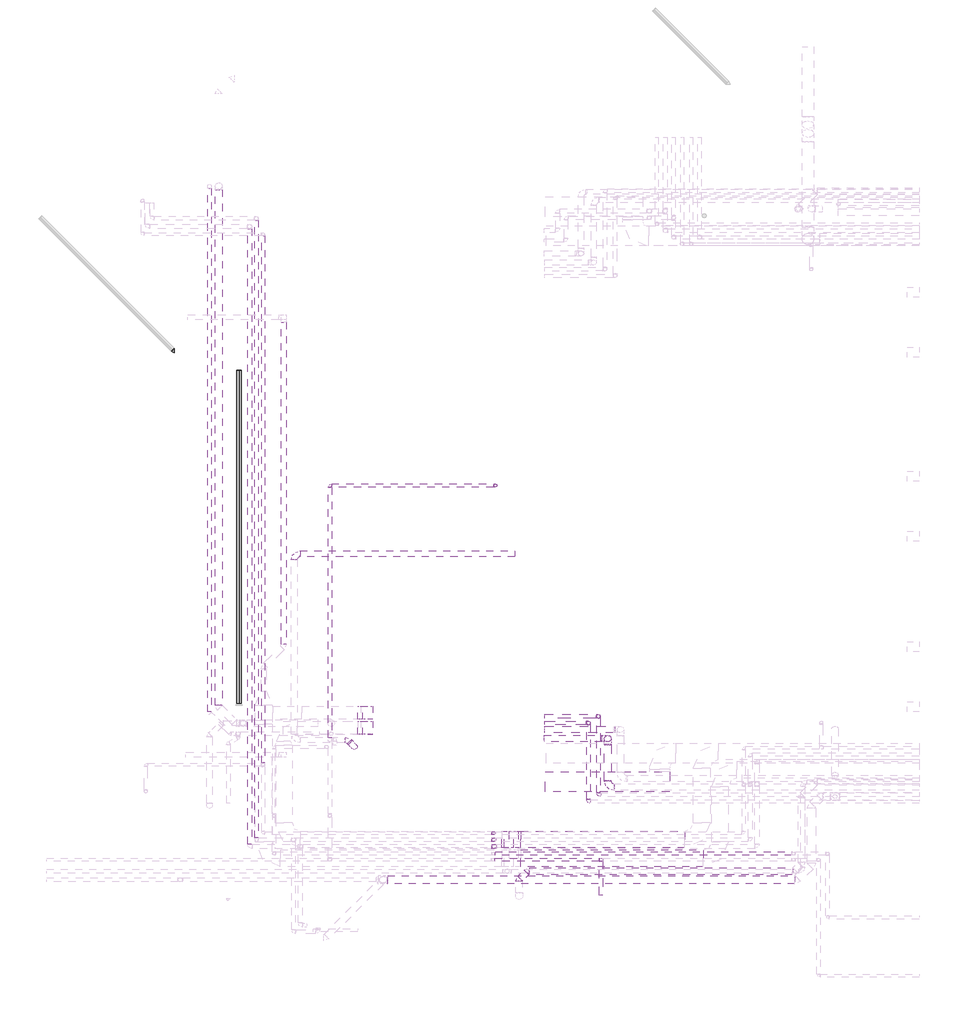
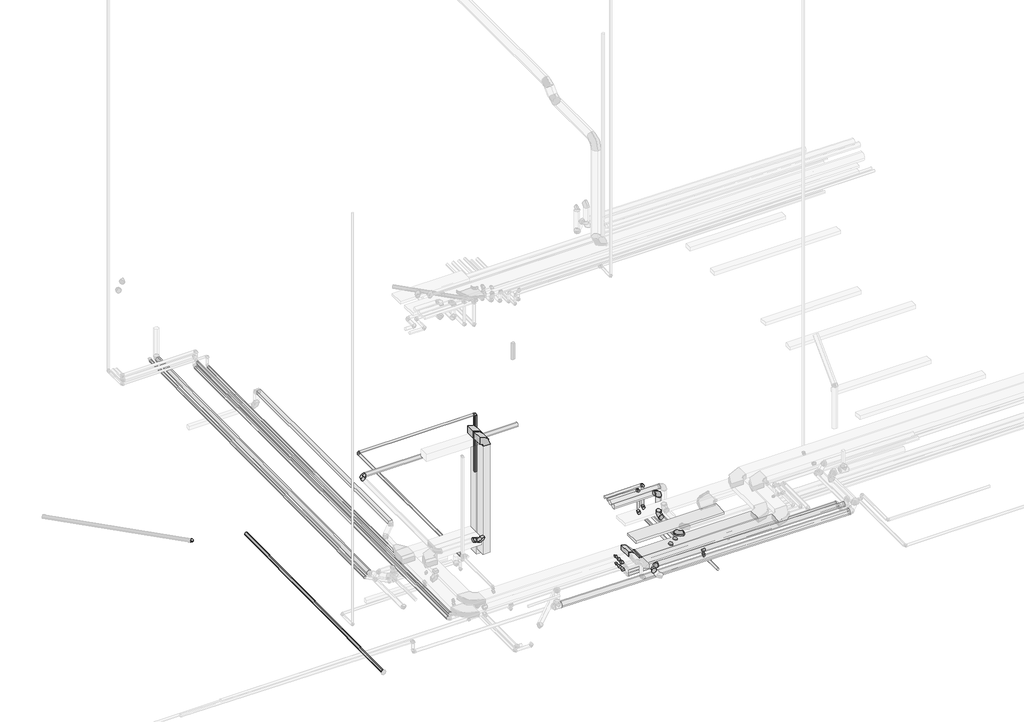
# One storey, part 4 of 12: 29 pipe segments, 22 pipe fittings, 8 duct segments, 7 duct fittings, 1 cable carrier segment.
"""IFC4 building model written with IfcOpenShell, lengths in millimetres."""

from ifc_helpers import new_model, si_unit, point, frame, frame_2d, origin, place, context, project, spatial, polyline, circle_curve, trimmed, segment, composite_curve, outline, extrude, transform, mapped, element, save
from components import m_codo_rectangular_radio_apt_1_w_7d0cd86b, m_codo_rectangular_radio_apt_1_w_cd8a0157, m_codo_redondo_ext_1_d_74319309, m_codo_redondo_ext_1_d_7c243904, pipe_fitting_fa3f9604, pipe_fitting_87aeffad, pipe_fitting_2d09eb79, pipe_fitting_e0fa64fe, pipe_fitting_d8548324, pipe_fitting_26941394, pipe_fitting_f15cb6fd, pipe_fitting_36eb3228, pipe_fitting_7388a683, pipe_fitting_2f38fb91

model = new_model("IFC4")

# Units and contexts
model_context = context("Model", 3, world=origin())
ifc_project = project(units=[si_unit("LENGTHUNIT", "METRE", prefix="MILLI")], contexts=[model_context])

# Site, building, storey
site = spatial("IfcSite", under=ifc_project)
building = spatial("IfcBuilding", under=site)
storey = spatial("IfcBuildingStorey", under=building, Name="Nivell -01 PS1_PK", Elevation=1850.0)

# Cable carrier segment
placement = place(None, origin())
element("IfcCableCarrierSegment", 1, ObjectType="EL", at=placement, inside=storey, context=model_context, shape_type="SweptSolid", body=[
    extrude(outline(polyline([(14049.9823979, -13338.9944753), (14049.9823979, -12738.9944753), (17769.9823979, -12738.9944753), (17769.9823979, -13338.9944753), (14049.9823979, -13338.9944753)])), frame((0.0, 0.0, 5156.6987298), z_axis=(0.0, 0.0, 1.0), x_axis=(1.0, 0.0, 0.0)), (0.0, 0.0, 1.0), 100.0),
])

# Duct fittings
m_codo_rectangular_radio_apt_1_w_shape = m_codo_rectangular_radio_apt_1_w_7d0cd86b(model_context)
element("IfcDuctFitting", 2, ObjectType="M_Codo rectangular - Radio : APT_1 W", at=placement, inside=storey, context=model_context, shape_type="MappedRepresentation", body=[
    mapped(m_codo_rectangular_radio_apt_1_w_shape, transform((8737.7661833, -10971.0153283, 10660.0), x_axis=(0.0, 0.0, 1.0), y_axis=(-1.0, 0.0, 0.0), z_axis=(0.0, -1.0, 0.0))),
])
m_codo_rectangular_radio_apt_1_w_2_shape = m_codo_rectangular_radio_apt_1_w_cd8a0157(model_context)
element("IfcDuctFitting", 3, ObjectType="M_Codo rectangular - Radio : EXT_1 W", at=placement, inside=storey, context=model_context, shape_type="MappedRepresentation", body=[
    mapped(m_codo_rectangular_radio_apt_1_w_2_shape, transform((12828.7133499, -14757.626822, 6150.0), x_axis=(1.0, 0.0, 0.0), y_axis=(0.0, 0.0, -1.0), z_axis=(0.0, 1.0, 0.0))),
])
element("IfcDuctFitting", 4, ObjectType="M_Codo rectangular - Radio : EXT_1 W", at=placement, inside=storey, context=model_context, shape_type="MappedRepresentation", body=[
    mapped(m_codo_rectangular_radio_apt_1_w_2_shape, transform((13228.7133499, -14757.626822, 5750.0), x_axis=(-1.0, 0.0, 0.0), y_axis=(0.0, 0.0, 1.0), z_axis=(0.0, 1.0, 0.0))),
])
element("IfcDuctFitting", 5, ObjectType="M_Codo rectangular - Radio : EXT_1 W", at=placement, inside=storey, context=model_context, shape_type="MappedRepresentation", body=[
    mapped(m_codo_rectangular_radio_apt_1_w_shape, transform((8737.7699514, -11421.0059601, 10660.0), x_axis=(0.0, 0.0, 1.0), y_axis=(-1.0, 0.0, 0.0), z_axis=(0.0, -1.0, 0.0))),
])
m_codo_redondo_ext_1_d_shape = m_codo_redondo_ext_1_d_74319309(model_context)
element("IfcDuctFitting", 6, ObjectType="M_Codo redondo : EXT_1 D", at=placement, inside=storey, context=model_context, shape_type="MappedRepresentation", body=[
    mapped(m_codo_redondo_ext_1_d_shape, transform((6541.1206995, -6220.1857717, 6462.5), x_axis=(-1.0, 0.0, 0.0), y_axis=(0.0, -1.0, 0.0), z_axis=(0.0, 0.0, 1.0))),
])
element("IfcDuctFitting", 7, ObjectType="M_Codo redondo : EXT_1 D", at=placement, inside=storey, context=model_context, shape_type="MappedRepresentation", body=[
    mapped(m_codo_redondo_ext_1_d_shape, transform((8341.1206995, -11984.7059364, 6462.5), x_axis=(0.7071067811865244, -0.7071067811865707, 0.0), y_axis=(0.0, 0.0, 1.0), z_axis=(-0.7071067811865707, -0.7071067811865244, 0.0))),
])
m_codo_redondo_ext_1_d_2_shape = m_codo_redondo_ext_1_d_7c243904(model_context)
element("IfcDuctFitting", 8, ObjectType="M_Codo redondo : EXT_1 D", at=placement, inside=storey, context=model_context, shape_type="MappedRepresentation", body=[
    mapped(m_codo_redondo_ext_1_d_2_shape, transform((8141.1206995, -11784.7059364, 6462.5), x_axis=(-0.707106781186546, 0.7071067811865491, 0.0), y_axis=(-0.7071067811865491, -0.707106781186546, 0.0), z_axis=(0.0, 0.0, 1.0))),
])

# Duct segments
element("IfcDuctSegment", 9, ObjectType="APT_Fibra de vidre rígida", at=placement, inside=storey, context=model_context, shape_type="SweptSolid", body=[
    extrude(outline(polyline([(-150.0, 50.0), (-150.0, 450.0), (150.0, 450.0), (150.0, 50.0), (-150.0, 50.0)])), frame((8737.7661833, -11221.0329799, 5280.0008687), z_axis=(0.0, 3.4747165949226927e-06, 0.9999999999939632), x_axis=(1.0, 0.0, 0.0)), (0.0, 0.0, 1.0), 5080.0),
])
element("IfcDuctSegment", 10, ObjectType="EXT_Fibra de vidre rígida", at=placement, inside=storey, context=model_context, shape_type="SweptSolid", body=[
    extrude(outline(polyline([(-150.0, 50.0), (-150.0, 450.0), (150.0, 450.0), (150.0, 50.0), (-150.0, 50.0)])), frame((8737.7699514, -11671.03298, 5530.0013985), z_axis=(0.0, 5.594187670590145e-06, 0.9999999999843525), x_axis=(1.0, 0.0, 0.0)), (0.0, 0.0, 1.0), 4830.0000001),
])
element("IfcDuctSegment", 11, ObjectType="EXT_Acer Galvanitzat - Rígid", at=placement, inside=storey, context=model_context, shape_type="SweptSolid", body=[
    extrude(outline(composite_curve([segment(trimmed(circle_curve(frame_2d((-6220.1857717, 6462.5)), 87.5), [point((-6307.6857717, 6462.5))], [point((-6220.1857717, 6550.0))], False, "CARTESIAN"), True, "CONTINUOUS"), segment(trimmed(circle_curve(frame_2d((-6220.1857717, 6462.5)), 87.5), [point((-6220.1857717, 6550.0))], [point((-6132.6857717, 6462.5))], False, "CARTESIAN"), True, "CONTINUOUS"), segment(trimmed(circle_curve(frame_2d((-6220.1857717, 6462.5)), 87.5), [point((-6132.6857717, 6462.5))], [point((-6220.1857717, 6375.0))], False, "CARTESIAN"), True, "CONTINUOUS"), segment(trimmed(circle_curve(frame_2d((-6220.1857717, 6462.5)), 87.5), [point((-6220.1857717, 6375.0))], [point((-6307.6857717, 6462.5))], False, "CARTESIAN"), True, "CONTINUOUS")], self_intersect=False)), frame((6716.1206995, 0.0, 0.0), z_axis=(1.0, 0.0, 0.0), x_axis=(0.0, 1.0, 0.0)), (0.0, 0.0, 1.0), 6425.0),
])
element("IfcDuctSegment", 12, ObjectType="EXT_Fibra de vidre rígida", at=placement, inside=storey, context=model_context, shape_type="SweptSolid", body=[
    extrude(outline(polyline([(13311.5560623, -15007.626822), (13311.5560623, -14507.626822), (18225.7133499, -14507.626822), (18225.7133499, -15007.626822), (13311.5560623, -15007.626822)])), frame((0.0, 0.0, 5650.0), z_axis=(0.0, 0.0, 1.0), x_axis=(1.0, 0.0, 0.0)), (0.0, 0.0, 1.0), 200.0),
])
element("IfcDuctSegment", 13, ObjectType="EXT_Acer Galvanitzat - Rígid", at=placement, inside=storey, context=model_context, shape_type="SweptSolid", body=[
    extrude(outline(composite_curve([segment(trimmed(circle_curve(frame_2d((0.0, -87.5)), 87.5), [point((-87.5, -87.5))], [point((0.0, 0.0))], False, "CARTESIAN"), True, "CONTINUOUS"), segment(trimmed(circle_curve(frame_2d((0.0, -87.5)), 87.5), [point((0.0, 0.0))], [point((87.5, -87.5))], False, "CARTESIAN"), True, "CONTINUOUS"), segment(trimmed(circle_curve(frame_2d((0.0, -87.5)), 87.5), [point((87.5, -87.5))], [point((0.0, -175.0))], False, "CARTESIAN"), True, "CONTINUOUS"), segment(trimmed(circle_curve(frame_2d((0.0, -87.5)), 87.5), [point((0.0, -175.0))], [point((-87.5, -87.5))], False, "CARTESIAN"), True, "CONTINUOUS")], self_intersect=False)), frame((8217.3770128, -11860.9622497, 6375.0), z_axis=(-0.7071067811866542, 0.707106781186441, 0.0), x_axis=(0.707106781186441, 0.7071067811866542, 0.0)), (0.0, 0.0, 1.0), 35.3553391),
])
element("IfcDuctSegment", 14, ObjectType="APT_Fibra de vidre rígida", at=placement, inside=storey, context=model_context, shape_type="SweptSolid", body=[
    extrude(outline(polyline([(18775.7133499, -15072.0340662), (18775.7133499, -15572.0340662), (13311.5560623, -15572.0340662), (13311.5560623, -15072.0340662), (18775.7133499, -15072.0340662)])), frame((0.0, 0.0, 5650.0), z_axis=(0.0, 0.0, 1.0), x_axis=(1.0, 0.0, 0.0)), (0.0, 0.0, 1.0), 200.0),
])
element("IfcDuctSegment", 15, ObjectType="EXT_Fibra de vidre rígida", at=placement, inside=storey, context=model_context, shape_type="SweptSolid", body=[
    extrude(outline(polyline([(0.0, -500.0), (0.0, 0.0), (400.0, 0.0), (400.0, -500.0), (0.0, -500.0)])), frame((12816.5813155, -14507.626822, 6020.7106781), z_axis=(0.7071067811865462, 0.0, 0.7071067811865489), x_axis=(0.7071067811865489, 0.0, -0.7071067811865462)), (0.0, 0.0, 1.0), 200.0),
])
element("IfcDuctSegment", 16, ObjectType="APT_Fibra de vidre rígida", at=placement, inside=storey, context=model_context, shape_type="SweptSolid", body=[
    extrude(outline(polyline([(6155.3976532, 706.9206384), (6305.3976532, 706.9206384), (6305.3976532, -8924.4254904), (6155.3976532, -8924.4254904), (6155.3976532, 706.9206384)])), frame((0.0, 0.0, 6075.0), z_axis=(0.0, 0.0, 1.0), x_axis=(1.0, 0.0, 0.0)), (0.0, 0.0, 1.0), 150.0),
])

# Pipe fittings
pipe_fitting_shape = pipe_fitting_fa3f9604(model_context)
element("IfcPipeFitting", 17, ObjectType="M_Codo - Genérico : Estándar", at=placement, inside=storey, context=model_context, shape_type="MappedRepresentation", body=[
    mapped(pipe_fitting_shape, transform((15337.1546057, -11273.3759778, 4855.0), x_axis=(4.256890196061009e-05, 0.9999999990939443, 0.0), y_axis=(0.0, 0.0, 1.0), z_axis=(0.9999999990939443, -4.256890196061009e-05, 0.0))),
])
element("IfcPipeFitting", 18, ObjectType="M_Codo - Genérico : Estándar", at=placement, inside=storey, context=model_context, shape_type="MappedRepresentation", body=[
    mapped(pipe_fitting_shape, transform((15337.1546057, -11273.3759778, 5850.0), x_axis=(0.0, 0.0, 1.0), y_axis=(-0.9999999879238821, 0.00015540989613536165, 0.0), z_axis=(-0.00015540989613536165, -0.9999999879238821, 0.0))),
])
element("IfcPipeFitting", 19, ObjectType="M_Codo - Genérico : Estándar", at=placement, inside=storey, context=model_context, shape_type="MappedRepresentation", body=[
    mapped(pipe_fitting_shape, transform((15637.1633733, -11073.3514949, 5850.0), x_axis=(0.0, 0.0, 1.0), y_axis=(-0.9999999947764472, 0.00010221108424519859, 0.0), z_axis=(-0.00010221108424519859, -0.9999999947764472, 0.0))),
])
element("IfcPipeFitting", 20, ObjectType="M_Codo - Genérico : Estándar", at=placement, inside=storey, context=model_context, shape_type="MappedRepresentation", body=[
    mapped(pipe_fitting_shape, transform((15637.1633733, -11073.3514949, 4855.0), x_axis=(0.0, 0.0, -1.0), y_axis=(-4.268530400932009e-05, -0.9999999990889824, 0.0), z_axis=(-0.9999999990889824, 4.268530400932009e-05, 0.0))),
])
element("IfcPipeFitting", 21, ObjectType="M_Codo - Genérico : Estándar", at=placement, inside=storey, context=model_context, shape_type="MappedRepresentation", body=[
    mapped(pipe_fitting_shape, transform((12506.2717422, -14767.4914554, 5895.0), x_axis=(1.0, 0.0, 0.0), y_axis=(0.0, 0.0, -1.0), z_axis=(0.0, 1.0, 0.0))),
])
element("IfcPipeFitting", 22, ObjectType="M_Codo - Genérico : Estándar", at=placement, inside=storey, context=model_context, shape_type="MappedRepresentation", body=[
    mapped(pipe_fitting_shape, transform((12506.2717422, -14767.4914554, 5515.0), x_axis=(0.0, 0.0, -1.0), y_axis=(1.0, 0.0, 0.0), z_axis=(0.0, -1.0, 0.0))),
])
pipe_fitting_2_shape = pipe_fitting_87aeffad(model_context)
element("IfcPipeFitting", 23, ObjectType="M_Codo - Genérico : Estándar", at=placement, inside=storey, context=model_context, shape_type="MappedRepresentation", body=[
    mapped(pipe_fitting_2_shape, transform((7606.3040659, -4175.6271266, 5899.2), x_axis=(-1.0, 0.0, 0.0), y_axis=(0.0, -1.0, 0.0), z_axis=(0.0, 0.0, 1.0))),
])
element("IfcPipeFitting", 24, ObjectType="M_Codo - Genérico : Estándar", at=placement, inside=storey, context=model_context, shape_type="MappedRepresentation", body=[
    mapped(pipe_fitting_2_shape, transform((12556.3040659, -4175.6271266, 5899.2), x_axis=(1.0, 0.0, 0.0), y_axis=(0.0, 0.0, -1.0), z_axis=(0.0, 1.0, 0.0))),
])
element("IfcPipeFitting", 25, ObjectType="M_Codo - Genérico : Estándar", at=placement, inside=storey, context=model_context, shape_type="MappedRepresentation", body=[
    mapped(pipe_fitting_2_shape, transform((12495.7217422, -14567.4914554, 5905.0), x_axis=(1.0, 0.0, 0.0), y_axis=(0.0, 0.0, -1.0), z_axis=(0.0, 1.0, 0.0))),
])
element("IfcPipeFitting", 26, ObjectType="M_Codo - Genérico : Estándar", at=placement, inside=storey, context=model_context, shape_type="MappedRepresentation", body=[
    mapped(pipe_fitting_2_shape, transform((12495.7217422, -14567.4914554, 5525.0), x_axis=(0.0, 0.0, -1.0), y_axis=(1.0, 0.0, 0.0), z_axis=(0.0, -1.0, 0.0))),
])
element("IfcPipeFitting", 27, ObjectType="M_Codo - Genérico : Estándar", at=placement, inside=storey, context=model_context, shape_type="MappedRepresentation", body=[
    mapped(pipe_fitting_2_shape, transform((15714.9203808, -15364.3646266, 5299.2), x_axis=(0.0, 0.0, -1.0), y_axis=(0.0, -1.0, 0.0), z_axis=(-1.0, 0.0, 0.0))),
])
pipe_fitting_3_shape = pipe_fitting_2d09eb79(model_context)
element("IfcPipeFitting", 28, ObjectType="M_Te - Genérica : Estándar", at=placement, inside=storey, context=model_context, shape_type="MappedRepresentation", body=[
    mapped(pipe_fitting_3_shape, transform((15714.9203808, -15364.3646266, 5519.2), x_axis=(1.0, 0.0, 0.0), y_axis=(0.0, 0.0, 1.0), z_axis=(0.0, -1.0, 0.0))),
])
pipe_fitting_4_shape = pipe_fitting_e0fa64fe(model_context)
element("IfcPipeFitting", 29, ObjectType="M_Codo - Genérico : Estándar", at=placement, inside=storey, context=model_context, shape_type="MappedRepresentation", body=[
    mapped(pipe_fitting_4_shape, transform((12514.7717422, -14967.4914554, 5887.5), x_axis=(1.0, 0.0, 0.0), y_axis=(0.0, 0.0, -1.0), z_axis=(0.0, 1.0, 0.0))),
])
element("IfcPipeFitting", 30, ObjectType="M_Codo - Genérico : Estándar", at=placement, inside=storey, context=model_context, shape_type="MappedRepresentation", body=[
    mapped(pipe_fitting_4_shape, transform((12514.7717422, -14967.4914554, 5507.5), x_axis=(0.0, 0.0, -1.0), y_axis=(1.0, 0.0, 0.0), z_axis=(0.0, -1.0, 0.0))),
])
pipe_fitting_5_shape = pipe_fitting_d8548324(model_context)
element("IfcPipeFitting", 31, ObjectType="M_Codo - Genérico : Estándar", at=placement, inside=storey, context=model_context, shape_type="MappedRepresentation", body=[
    mapped(pipe_fitting_5_shape, transform((2931.1734244, -136.3422966, 1178.9111219), x_axis=(0.707089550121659, -0.7070533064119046, -0.009999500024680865), y_axis=(0.7070533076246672, 0.7071481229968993, -0.0041415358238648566), z_axis=(0.009999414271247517, -0.004141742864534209, 0.9999414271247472))),
])
pipe_fitting_6_shape = pipe_fitting_26941394(model_context)
element("IfcPipeFitting", 32, ObjectType="M_Codo - Genérico : Estándar", at=placement, inside=storey, context=model_context, shape_type="MappedRepresentation", body=[
    mapped(pipe_fitting_6_shape, transform((15337.0547025, -13620.2360568, 4855.0), x_axis=(-4.2568901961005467e-05, -0.9999999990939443, 0.0), y_axis=(0.9999999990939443, -4.2568901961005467e-05, 0.0), z_axis=(0.0, 0.0, 1.0))),
])
pipe_fitting_7_shape = pipe_fitting_f15cb6fd(model_context)
element("IfcPipeFitting", 33, ObjectType="M_Codo - Genérico : Estándar", at=placement, inside=storey, context=model_context, shape_type="MappedRepresentation", body=[
    mapped(pipe_fitting_7_shape, transform((15637.0623018, -13420.2277182, 4855.0), x_axis=(-5.689495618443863e-05, -0.999999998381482, 0.0), y_axis=(0.999999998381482, -5.689495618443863e-05, 0.0), z_axis=(0.0, 0.0, 1.0))),
])
pipe_fitting_8_shape = pipe_fitting_36eb3228(model_context)
element("IfcPipeFitting", 34, ObjectType="M_Codo - Genérico : Estándar", at=placement, inside=storey, context=model_context, shape_type="MappedRepresentation", body=[
    mapped(pipe_fitting_8_shape, transform((13265.97625, -15961.5588709, 5846.8280438), x_axis=(-0.7070697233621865, -0.7070697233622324, 0.010237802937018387), y_axis=(0.7071296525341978, -0.7070731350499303, 0.0039033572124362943), z_axis=(0.00447892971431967, 0.009999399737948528, 0.9999399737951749))),
])
pipe_fitting_9_shape = pipe_fitting_7388a683(model_context)
element("IfcPipeFitting", 35, ObjectType="M_Codo - Genérico : Estándar", at=placement, inside=storey, context=model_context, shape_type="MappedRepresentation", body=[
    mapped(pipe_fitting_9_shape, transform((13518.4825835, -15709.0525375, 5843.1719544), x_axis=(-0.9999442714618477, 5.5608140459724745e-06, 0.010557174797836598), y_axis=(3.583596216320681e-05, -0.9999923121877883, 0.003921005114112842), z_axis=(0.010557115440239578, 0.003921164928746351, 0.9999365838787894))),
])
pipe_fitting_10_shape = pipe_fitting_2f38fb91(model_context)
element("IfcPipeFitting", 36, ObjectType="Codo 90º Soldadura a Tope SDR 11 BluePipe : Estándar", at=placement, inside=storey, context=model_context, shape_type="MappedRepresentation", body=[
    mapped(pipe_fitting_10_shape, transform((15917.1821353, -11743.2748365, 5849.9994491), x_axis=(0.9999999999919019, -2.5073508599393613e-06, -3.1479117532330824e-06), y_axis=(-3.147912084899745e-06, -1.3227378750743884e-07, -0.9999999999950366), z_axis=(2.507350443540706e-06, 0.9999999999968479, -1.3228168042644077e-07))),
])
element("IfcPipeFitting", 37, ObjectType="Codo 90º Soldadura a Tope SDR 11 BluePipe : Estándar", at=placement, inside=storey, context=model_context, shape_type="MappedRepresentation", body=[
    mapped(pipe_fitting_10_shape, transform((15917.1360908, -11743.2750079, 4819.9998693), x_axis=(4.769498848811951e-07, -1.3228287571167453e-07, -0.9999999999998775), y_axis=(-4.3362157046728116e-05, -0.999999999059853, 1.3226219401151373e-07), z_axis=(-0.999999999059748, 4.336215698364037e-05, -4.769556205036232e-07))),
])
element("IfcPipeFitting", 38, ObjectType="Codo 90º Soldadura a Tope SDR 11 BluePipe : Estándar", at=placement, inside=storey, context=model_context, shape_type="MappedRepresentation", body=[
    mapped(pipe_fitting_10_shape, transform((15917.0711893, -13189.7667067, 4820.0000672), x_axis=(-5.581078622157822e-05, -0.9999999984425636, 1.7023241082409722e-07), y_axis=(0.999999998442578, -5.581078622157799e-05, 6.059060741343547e-12), z_axis=(3.4417439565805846e-12, 1.7023241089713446e-07, 0.9999999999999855))),
])

# Pipe segments
element("IfcPipeSegment", 39, ObjectType="PPR_CLI_Aquatherm Blue Pipe", at=placement, inside=storey, context=model_context, shape_type="SweptSolid", body=[
    extrude(outline(composite_curve([segment(trimmed(circle_curve(frame_2d((0.0, -100.0)), 100.0), [point((0.0, 0.0))], [point((100.0, -100.0))], False, "CARTESIAN"), True, "CONTINUOUS"), segment(trimmed(circle_curve(frame_2d((0.0, -100.0)), 100.0), [point((100.0, -100.0))], [point((0.0, -200.0))], False, "CARTESIAN"), True, "CONTINUOUS"), segment(trimmed(circle_curve(frame_2d((0.0, -100.0)), 100.0), [point((0.0, -200.0))], [point((-100.0, -100.0))], False, "CARTESIAN"), True, "CONTINUOUS"), segment(trimmed(circle_curve(frame_2d((0.0, -100.0)), 100.0), [point((-100.0, -100.0))], [point((0.0, 0.0))], False, "CARTESIAN"), True, "CONTINUOUS")], self_intersect=False)), frame((15817.0809563, -13014.7623707, 4819.9998924), z_axis=(4.3362157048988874e-05, 0.9999999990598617, 0.0), x_axis=(0.0, 0.0, -1.0)), (0.0, 0.0, 1.0), 1096.4917002),
])
element("IfcPipeSegment", 40, ObjectType="PPR_CLI_Aquatherm Blue Pipe", at=placement, inside=storey, context=model_context, shape_type="SweptSolid", body=[
    extrude(outline(composite_curve([segment(trimmed(circle_curve(frame_2d((0.0, 100.0)), 100.0), [point((-100.0, 100.0))], [point((0.0, 200.0))], False, "CARTESIAN"), True, "CONTINUOUS"), segment(trimmed(circle_curve(frame_2d((0.0, 100.0)), 100.0), [point((0.0, 200.0))], [point((100.0, 100.0))], False, "CARTESIAN"), True, "CONTINUOUS"), segment(trimmed(circle_curve(frame_2d((0.0, 100.0)), 100.0), [point((100.0, 100.0))], [point((0.0, 0.0))], False, "CARTESIAN"), True, "CONTINUOUS"), segment(trimmed(circle_curve(frame_2d((0.0, 100.0)), 100.0), [point((0.0, 0.0))], [point((-100.0, 100.0))], False, "CARTESIAN"), True, "CONTINUOUS")], self_intersect=False)), frame((16122.1881928, -11473.2860895, 5750.0), z_axis=(-0.999999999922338, 1.246290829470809e-05, 0.0), x_axis=(-1.246290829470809e-05, -0.999999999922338, 0.0)), (0.0, 0.0, 1.0), 2085.0440531),
])
element("IfcPipeSegment", 41, ObjectType="PPR_CLI_Aquatherm Blue Pipe", at=placement, inside=storey, context=model_context, shape_type="SweptSolid", body=[
    extrude(outline(composite_curve([segment(trimmed(circle_curve(frame_2d((0.0, 55.0)), 55.0), [point((-55.0000001, 55.0))], [point((0.0, 110.0))], False, "CARTESIAN"), True, "CONTINUOUS"), segment(trimmed(circle_curve(frame_2d((0.0, 55.0)), 55.0), [point((0.0, 110.0))], [point((55.0, 55.0))], False, "CARTESIAN"), True, "CONTINUOUS"), segment(trimmed(circle_curve(frame_2d((0.0, 55.0)), 55.0), [point((55.0, 55.0))], [point((0.0, 0.0))], False, "CARTESIAN"), True, "CONTINUOUS"), segment(trimmed(circle_curve(frame_2d((0.0, 55.0)), 55.0), [point((0.0, 0.0))], [point((-55.0000001, 55.0))], False, "CARTESIAN"), True, "CONTINUOUS")], self_intersect=False)), frame((15274.2171065, -11273.3661967, 5795.0), z_axis=(-0.9999999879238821, 0.00015540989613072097, 0.0), x_axis=(-0.00015540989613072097, -0.9999999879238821, 0.0)), (0.0, 0.0, 1.0), 1237.0659068),
])
element("IfcPipeSegment", 42, ObjectType="PPR_CLI_Aquatherm Blue Pipe", at=placement, inside=storey, context=model_context, shape_type="SweptSolid", body=[
    extrude(outline(composite_curve([segment(trimmed(circle_curve(frame_2d((0.0, -55.0)), 55.0), [point((0.0, 0.0))], [point((55.0, -55.0))], False, "CARTESIAN"), True, "CONTINUOUS"), segment(trimmed(circle_curve(frame_2d((0.0, -55.0)), 55.0), [point((55.0, -55.0))], [point((0.0, -110.0))], False, "CARTESIAN"), True, "CONTINUOUS"), segment(trimmed(circle_curve(frame_2d((0.0, -55.0)), 55.0), [point((0.0, -110.0))], [point((-55.0, -55.0))], False, "CARTESIAN"), True, "CONTINUOUS"), segment(trimmed(circle_curve(frame_2d((0.0, -55.0)), 55.0), [point((-55.0, -55.0))], [point((0.0, 0.0))], False, "CARTESIAN"), True, "CONTINUOUS")], self_intersect=False)), frame((15282.0573818, -13557.2935377, 4855.0), z_axis=(4.256890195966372e-05, 0.9999999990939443, 0.0), x_axis=(0.0, 0.0, -1.0)), (0.0, 0.0, 1.0), 2220.9824033),
])
element("IfcPipeSegment", 43, ObjectType="PPR_CLI_Aquatherm Blue Pipe", at=placement, inside=storey, context=model_context, shape_type="SweptSolid", body=[
    extrude(outline(composite_curve([segment(trimmed(circle_curve(frame_2d((0.0, 55.0)), 55.0), [point((-55.0, 55.0))], [point((0.0, 110.0))], False, "CARTESIAN"), True, "CONTINUOUS"), segment(trimmed(circle_curve(frame_2d((0.0, 55.0)), 55.0), [point((0.0, 110.0))], [point((55.0, 55.0))], False, "CARTESIAN"), True, "CONTINUOUS"), segment(trimmed(circle_curve(frame_2d((0.0, 55.0)), 55.0), [point((55.0, 55.0))], [point((0.0, 0.0))], False, "CARTESIAN"), True, "CONTINUOUS"), segment(trimmed(circle_curve(frame_2d((0.0, 55.0)), 55.0), [point((0.0, 0.0))], [point((-55.0, 55.0))], False, "CARTESIAN"), True, "CONTINUOUS")], self_intersect=False)), frame((15574.2258736, -11073.345062, 5795.0), z_axis=(-0.9999999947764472, 0.00010221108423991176, 0.0), x_axis=(-0.00010221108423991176, -0.9999999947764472, 0.0)), (0.0, 0.0, 1.0), 1537.0659166),
])
element("IfcPipeSegment", 44, ObjectType="PPR_CLI_Aquatherm Blue Pipe", at=placement, inside=storey, context=model_context, shape_type="SweptSolid", body=[
    extrude(outline(composite_curve([segment(trimmed(circle_curve(frame_2d((0.0, 55.0)), 55.0), [point((0.0, 110.0))], [point((55.0, 55.0))], False, "CARTESIAN"), True, "CONTINUOUS"), segment(trimmed(circle_curve(frame_2d((0.0, 55.0)), 55.0), [point((55.0, 55.0))], [point((0.0, 0.0))], False, "CARTESIAN"), True, "CONTINUOUS"), segment(trimmed(circle_curve(frame_2d((0.0, 55.0)), 55.0), [point((0.0, 0.0))], [point((-55.0, 55.0))], False, "CARTESIAN"), True, "CONTINUOUS"), segment(trimmed(circle_curve(frame_2d((0.0, 55.0)), 55.0), [point((-55.0, 55.0))], [point((0.0, 110.0))], False, "CARTESIAN"), True, "CONTINUOUS")], self_intersect=False)), frame((15582.0658829, -13357.2842897, 4855.0), z_axis=(4.2685304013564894e-05, 0.9999999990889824, 0.0), x_axis=(0.0, 0.0, 1.0)), (0.0, 0.0, 1.0), 2220.9976445),
])
element("IfcPipeSegment", 45, ObjectType="PPR_CLI_Aquatherm Blue Pipe", at=placement, inside=storey, context=model_context, shape_type="SweptSolid", body=[
    extrude(outline(composite_curve([segment(trimmed(circle_curve(frame_2d((0.0, 100.0)), 100.0), [point((-100.0, 100.0))], [point((0.0, 200.0))], False, "CARTESIAN"), True, "CONTINUOUS"), segment(trimmed(circle_curve(frame_2d((0.0, 100.0)), 100.0), [point((0.0, 200.0))], [point((100.0, 100.0))], False, "CARTESIAN"), True, "CONTINUOUS"), segment(trimmed(circle_curve(frame_2d((0.0, 100.0)), 100.0), [point((100.0, 100.0))], [point((0.0, 0.0))], False, "CARTESIAN"), True, "CONTINUOUS"), segment(trimmed(circle_curve(frame_2d((0.0, 100.0)), 100.0), [point((0.0, 0.0))], [point((-100.0, 100.0))], False, "CARTESIAN"), True, "CONTINUOUS")], self_intersect=False)), frame((15742.1818205, -11743.2743977, 5750.0), z_axis=(-0.9999999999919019, 2.5073508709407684e-06, 3.1479071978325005e-06), x_axis=(-2.507350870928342e-06, -0.9999999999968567, 7.894129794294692e-12)), (0.0, 0.0, 1.0), 1725.0480005),
])
element("IfcPipeSegment", 46, ObjectType="PPR_CLI_Aquatherm Blue Pipe", at=placement, inside=storey, context=model_context, shape_type="SweptSolid", body=[
    extrude(outline(composite_curve([segment(trimmed(circle_curve(frame_2d((0.0, -100.0)), 100.0), [point((-100.0, -100.0))], [point((0.0, 0.0))], False, "CARTESIAN"), True, "CONTINUOUS"), segment(trimmed(circle_curve(frame_2d((0.0, -100.0)), 100.0), [point((0.0, 0.0))], [point((100.0, -100.0))], False, "CARTESIAN"), True, "CONTINUOUS"), segment(trimmed(circle_curve(frame_2d((0.0, -100.0)), 100.0), [point((100.0, -100.0))], [point((0.0, -200.0))], False, "CARTESIAN"), True, "CONTINUOUS"), segment(trimmed(circle_curve(frame_2d((0.0, -100.0)), 100.0), [point((0.0, -200.0))], [point((-100.0, -100.0))], False, "CARTESIAN"), True, "CONTINUOUS")], self_intersect=False)), frame((15917.1360073, -11843.2749848, 4994.9998825), z_axis=(2.777570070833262e-06, 1.3227244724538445e-07, 0.999999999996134), x_axis=(-0.9999999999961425, 0.0, 2.7775700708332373e-06)), (0.0, 0.0, 1.0), 679.99958),
])
element("IfcPipeSegment", 47, ObjectType="PPR_CLI_Aquatherm Blue Pipe", at=placement, inside=storey, context=model_context, shape_type="SweptSolid", body=[
    extrude(outline(composite_curve([segment(trimmed(circle_curve(frame_2d((15337.1546057, -11273.3759778)), 55.0), [point((15282.1546057, -11273.3759778))], [point((15337.1546057, -11218.3759778))], False, "CARTESIAN"), True, "CONTINUOUS"), segment(trimmed(circle_curve(frame_2d((15337.1546057, -11273.3759778)), 55.0), [point((15337.1546057, -11218.3759778))], [point((15392.1546057, -11273.3759778))], False, "CARTESIAN"), True, "CONTINUOUS"), segment(trimmed(circle_curve(frame_2d((15337.1546057, -11273.3759778)), 55.0), [point((15392.1546057, -11273.3759778))], [point((15337.1546057, -11328.3759778))], False, "CARTESIAN"), True, "CONTINUOUS"), segment(trimmed(circle_curve(frame_2d((15337.1546057, -11273.3759778)), 55.0), [point((15337.1546057, -11328.3759778))], [point((15282.1546057, -11273.3759778))], False, "CARTESIAN"), True, "CONTINUOUS")], self_intersect=False)), frame((0.0, 0.0, 4917.9375), z_axis=(0.0, 0.0, 1.0), x_axis=(1.0, 0.0, 0.0)), (0.0, 0.0, 1.0), 869.125),
])
element("IfcPipeSegment", 48, ObjectType="PPR_CLI_Aquatherm Blue Pipe", at=placement, inside=storey, context=model_context, shape_type="SweptSolid", body=[
    extrude(outline(composite_curve([segment(trimmed(circle_curve(frame_2d((15637.1633733, -11073.3514949)), 55.0), [point((15582.1633733, -11073.3514949))], [point((15637.1633733, -11018.3514949))], False, "CARTESIAN"), True, "CONTINUOUS"), segment(trimmed(circle_curve(frame_2d((15637.1633733, -11073.3514949)), 55.0), [point((15637.1633733, -11018.3514949))], [point((15692.1633733, -11073.3514949))], False, "CARTESIAN"), True, "CONTINUOUS"), segment(trimmed(circle_curve(frame_2d((15637.1633733, -11073.3514949)), 55.0), [point((15692.1633733, -11073.3514949))], [point((15637.1633733, -11128.3514949))], False, "CARTESIAN"), True, "CONTINUOUS"), segment(trimmed(circle_curve(frame_2d((15637.1633733, -11073.3514949)), 55.0), [point((15637.1633733, -11128.3514949))], [point((15582.1633733, -11073.3514949))], False, "CARTESIAN"), True, "CONTINUOUS")], self_intersect=False)), frame((0.0, 0.0, 4917.9375), z_axis=(0.0, 0.0, 1.0), x_axis=(1.0, 0.0, 0.0)), (0.0, 0.0, 1.0), 869.125),
])
element("IfcPipeSegment", 49, ObjectType="AN_CI", at=placement, inside=storey, context=model_context, shape_type="SweptSolid", body=[
    extrude(outline(composite_curve([segment(trimmed(circle_curve(frame_2d((5899.2, 7606.3040659)), 50.8), [point((5899.2, 7657.1040659))], [point((5950.0, 7606.3040659))], False, "CARTESIAN"), True, "CONTINUOUS"), segment(trimmed(circle_curve(frame_2d((5899.2, 7606.3040659)), 50.8), [point((5950.0, 7606.3040659))], [point((5899.2, 7555.5040659))], False, "CARTESIAN"), True, "CONTINUOUS"), segment(trimmed(circle_curve(frame_2d((5899.2, 7606.3040659)), 50.8), [point((5899.2, 7555.5040659))], [point((5848.4, 7606.3040659))], False, "CARTESIAN"), True, "CONTINUOUS"), segment(trimmed(circle_curve(frame_2d((5899.2, 7606.3040659)), 50.8), [point((5848.4, 7606.3040659))], [point((5899.2, 7657.1040659))], False, "CARTESIAN"), True, "CONTINUOUS")], self_intersect=False)), frame((0.0, -11712.3079936, 0.0), z_axis=(0.0, 1.0, 0.0), x_axis=(0.0, 0.0, 1.0)), (0.0, 0.0, 1.0), 7484.293367),
])
element("IfcPipeSegment", 50, ObjectType="AN_CI", at=placement, inside=storey, context=model_context, shape_type="SweptSolid", body=[
    extrude(outline(composite_curve([segment(trimmed(circle_curve(frame_2d((-4175.6271266, 5899.2)), 50.8), [point((-4226.4271266, 5899.2))], [point((-4175.6271266, 5950.0))], False, "CARTESIAN"), True, "CONTINUOUS"), segment(trimmed(circle_curve(frame_2d((-4175.6271266, 5899.2)), 50.8), [point((-4175.6271266, 5950.0))], [point((-4124.8271266, 5899.2))], False, "CARTESIAN"), True, "CONTINUOUS"), segment(trimmed(circle_curve(frame_2d((-4175.6271266, 5899.2)), 50.8), [point((-4124.8271266, 5899.2))], [point((-4175.6271266, 5848.4))], False, "CARTESIAN"), True, "CONTINUOUS"), segment(trimmed(circle_curve(frame_2d((-4175.6271266, 5899.2)), 50.8), [point((-4175.6271266, 5848.4))], [point((-4226.4271266, 5899.2))], False, "CARTESIAN"), True, "CONTINUOUS")], self_intersect=False)), frame((7658.6915659, 0.0, 0.0), z_axis=(1.0, 0.0, 0.0), x_axis=(0.0, 1.0, 0.0)), (0.0, 0.0, 1.0), 4845.225),
])
element("IfcPipeSegment", 51, ObjectType="AN_CI", at=placement, inside=storey, context=model_context, shape_type="SweptSolid", body=[
    extrude(outline(composite_curve([segment(trimmed(circle_curve(frame_2d((12556.3040659, -4175.6271266)), 50.8), [point((12505.5040659, -4175.6271266))], [point((12556.3040659, -4124.8271266))], False, "CARTESIAN"), True, "CONTINUOUS"), segment(trimmed(circle_curve(frame_2d((12556.3040659, -4175.6271266)), 50.8), [point((12556.3040659, -4124.8271266))], [point((12607.1040659, -4175.6271266))], False, "CARTESIAN"), True, "CONTINUOUS"), segment(trimmed(circle_curve(frame_2d((12556.3040659, -4175.6271266)), 50.8), [point((12607.1040659, -4175.6271266))], [point((12556.3040659, -4226.4271266))], False, "CARTESIAN"), True, "CONTINUOUS"), segment(trimmed(circle_curve(frame_2d((12556.3040659, -4175.6271266)), 50.8), [point((12556.3040659, -4226.4271266))], [point((12505.5040659, -4175.6271266))], False, "CARTESIAN"), True, "CONTINUOUS")], self_intersect=False)), frame((0.0, 0.0, 3350.0), z_axis=(0.0, 0.0, 1.0), x_axis=(1.0, 0.0, 0.0)), (0.0, 0.0, 1.0), 2496.8125),
])
element("IfcPipeSegment", 52, ObjectType="AN_CI", at=placement, inside=storey, context=model_context, shape_type="SweptSolid", body=[
    extrude(outline(composite_curve([segment(trimmed(circle_curve(frame_2d((5299.2, 15714.9203808)), 50.8), [point((5299.2, 15664.1203808))], [point((5248.4, 15714.9203808))], False, "CARTESIAN"), True, "CONTINUOUS"), segment(trimmed(circle_curve(frame_2d((5299.2, 15714.9203808)), 50.8), [point((5248.4, 15714.9203808))], [point((5299.2, 15765.7203808))], False, "CARTESIAN"), True, "CONTINUOUS"), segment(trimmed(circle_curve(frame_2d((5299.2, 15714.9203808)), 50.8), [point((5299.2, 15765.7203808))], [point((5350.0, 15714.9203808))], False, "CARTESIAN"), True, "CONTINUOUS"), segment(trimmed(circle_curve(frame_2d((5299.2, 15714.9203808)), 50.8), [point((5350.0, 15714.9203808))], [point((5299.2, 15664.1203808))], False, "CARTESIAN"), True, "CONTINUOUS")], self_intersect=False)), frame((0.0, -16434.3646266, 0.0), z_axis=(0.0, 1.0, 0.0), x_axis=(0.0, 0.0, 1.0)), (0.0, 0.0, 1.0), 1017.6125),
])
element("IfcPipeSegment", 53, ObjectType="PP_FN", at=placement, inside=storey, context=model_context, shape_type="SweptSolid", body=[
    extrude(outline(composite_curve([segment(trimmed(circle_curve(frame_2d((0.0, 62.5)), 62.5), [point((0.0, 125.0))], [point((62.5, 62.5))], False, "CARTESIAN"), True, "CONTINUOUS"), segment(trimmed(circle_curve(frame_2d((0.0, 62.5)), 62.5), [point((62.5, 62.5))], [point((0.0, 0.0))], False, "CARTESIAN"), True, "CONTINUOUS"), segment(trimmed(circle_curve(frame_2d((0.0, 62.5)), 62.5), [point((0.0, 0.0))], [point((-62.5, 62.5))], False, "CARTESIAN"), True, "CONTINUOUS"), segment(trimmed(circle_curve(frame_2d((0.0, 62.5)), 62.5), [point((-62.5, 62.5))], [point((0.0, 125.0))], False, "CARTESIAN"), True, "CONTINUOUS")], self_intersect=False)), frame((5147.1609692, -14896.0483925, 5887.5), z_axis=(4.153409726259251e-05, 0.9999999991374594, 0.0), x_axis=(0.0, 0.0, 1.0)), (0.0, 0.0, 1.0), 18394.892867),
])
element("IfcPipeSegment", 54, ObjectType="PP_FN", at=placement, inside=storey, context=model_context, shape_type="SweptSolid", body=[
    extrude(outline(composite_curve([segment(trimmed(circle_curve(frame_2d((0.0, -54.9999999)), 55.0), [point((0.0, 0.0))], [point((55.0, -54.9999999))], False, "CARTESIAN"), True, "CONTINUOUS"), segment(trimmed(circle_curve(frame_2d((0.0, -54.9999999)), 55.0), [point((55.0, -54.9999999))], [point((0.0, -110.0))], False, "CARTESIAN"), True, "CONTINUOUS"), segment(trimmed(circle_curve(frame_2d((0.0, -54.9999999)), 55.0), [point((0.0, -110.0))], [point((-55.0, -54.9999999))], False, "CARTESIAN"), True, "CONTINUOUS"), segment(trimmed(circle_curve(frame_2d((0.0, -54.9999999)), 55.0), [point((-55.0, -54.9999999))], [point((0.0, 0.0))], False, "CARTESIAN"), True, "CONTINUOUS")], self_intersect=False)), frame((5354.6689572, -14704.5490569, 5895.0), z_axis=(4.1534684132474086e-05, 0.999999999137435, 0.0), x_axis=(0.0, 0.0, -1.0)), (0.0, 0.0, 1.0), 18456.8932201),
])
element("IfcPipeSegment", 55, ObjectType="PP_FN", at=placement, inside=storey, context=model_context, shape_type="SweptSolid", body=[
    extrude(outline(composite_curve([segment(trimmed(circle_curve(frame_2d((0.0, -45.0)), 45.0), [point((0.0, 0.0))], [point((45.0, -45.0))], False, "CARTESIAN"), True, "CONTINUOUS"), segment(trimmed(circle_curve(frame_2d((0.0, -45.0)), 45.0), [point((45.0, -45.0))], [point((0.0, -90.0000001))], False, "CARTESIAN"), True, "CONTINUOUS"), segment(trimmed(circle_curve(frame_2d((0.0, -45.0)), 45.0), [point((0.0, -90.0000001))], [point((-45.0, -45.0))], False, "CARTESIAN"), True, "CONTINUOUS"), segment(trimmed(circle_curve(frame_2d((0.0, -45.0)), 45.0), [point((-45.0, -45.0))], [point((0.0, 0.0))], False, "CARTESIAN"), True, "CONTINUOUS")], self_intersect=False)), frame((5564.7588894, -12463.6736149, 5905.0), z_axis=(4.172494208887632e-05, 0.9999999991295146, 0.0), x_axis=(0.0, 0.0, -1.0)), (0.0, 0.0, 1.0), 15752.764704),
])
element("IfcPipeSegment", 56, ObjectType="PVC_Baixant", at=placement, inside=storey, context=model_context, shape_type="SweptSolid", body=[
    extrude(outline(composite_curve([segment(trimmed(circle_curve(frame_2d((0.0, -55.0)), 55.0), [point((-55.0, -55.0))], [point((0.0, 0.0))], False, "CARTESIAN"), True, "CONTINUOUS"), segment(trimmed(circle_curve(frame_2d((0.0, -55.0)), 55.0), [point((0.0, 0.0))], [point((55.0, -55.0))], False, "CARTESIAN"), True, "CONTINUOUS"), segment(trimmed(circle_curve(frame_2d((0.0, -55.0)), 55.0), [point((55.0, -55.0))], [point((0.0, -110.0000001))], False, "CARTESIAN"), True, "CONTINUOUS"), segment(trimmed(circle_curve(frame_2d((0.0, -55.0)), 55.0), [point((0.0, -110.0000001))], [point((-55.0, -55.0))], False, "CARTESIAN"), True, "CONTINUOUS")], self_intersect=False)), frame((4010.393115, -10946.8542739, 5656.5466009), z_axis=(0.0, 0.9999515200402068, 0.009846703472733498), x_axis=(1.0, 0.0, 0.0)), (0.0, 0.0, 1.0), 15665.5041187),
])
element("IfcPipeSegment", 57, ObjectType="PVC_Baixant", at=placement, inside=storey, context=model_context, shape_type="SweptSolid", body=[
    extrude(outline(composite_curve([segment(trimmed(circle_curve(frame_2d((0.0, -100.0)), 100.0), [point((-100.0, -100.0))], [point((0.0, 0.0))], False, "CARTESIAN"), True, "CONTINUOUS"), segment(trimmed(circle_curve(frame_2d((0.0, -100.0)), 100.0), [point((0.0, 0.0))], [point((100.0, -100.0))], False, "CARTESIAN"), True, "CONTINUOUS"), segment(trimmed(circle_curve(frame_2d((0.0, -100.0)), 100.0), [point((100.0, -100.0))], [point((0.0, -200.0))], False, "CARTESIAN"), True, "CONTINUOUS"), segment(trimmed(circle_curve(frame_2d((0.0, -100.0)), 100.0), [point((0.0, -200.0))], [point((-100.0, -100.0))], False, "CARTESIAN"), True, "CONTINUOUS")], self_intersect=False)), frame((4287.2876623, -10742.8952485, 5607.4790699), z_axis=(0.0, 0.9999500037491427, 0.009999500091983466), x_axis=(1.0, 0.0, 0.0)), (0.0, 0.0, 1.0), 15417.4830747),
])
element("IfcPipeSegment", 58, ObjectType="PVC_Baixant", at=placement, inside=storey, context=model_context, shape_type="SweptSolid", body=[
    extrude(outline(composite_curve([segment(trimmed(circle_curve(frame_2d((0.0, -62.5)), 62.5), [point((-62.5, -62.5))], [point((0.0, 0.0))], False, "CARTESIAN"), True, "CONTINUOUS"), segment(trimmed(circle_curve(frame_2d((0.0, -62.5)), 62.5), [point((0.0, 0.0))], [point((62.5, -62.5))], False, "CARTESIAN"), True, "CONTINUOUS"), segment(trimmed(circle_curve(frame_2d((0.0, -62.5)), 62.5), [point((62.5, -62.5))], [point((0.0, -125.0))], False, "CARTESIAN"), True, "CONTINUOUS"), segment(trimmed(circle_curve(frame_2d((0.0, -62.5)), 62.5), [point((0.0, -125.0))], [point((-62.5, -62.5))], False, "CARTESIAN"), True, "CONTINUOUS")], self_intersect=False)), frame((4891.2404963, -10693.0897562, 994.5163195), z_axis=(0.0, 0.9999500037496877, 0.009999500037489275), x_axis=(1.0, 0.0, 0.0)), (0.0, 0.0, 1.0), 9968.9556243),
])
element("IfcPipeSegment", 59, ObjectType="AN_CI", at=placement, inside=storey, context=model_context, shape_type="SweptSolid", body=[
    extrude(outline(composite_curve([segment(trimmed(circle_curve(frame_2d((-15364.3646266, 5519.2)), 50.8), [point((-15313.5646266, 5519.2))], [point((-15364.3646266, 5468.4))], False, "CARTESIAN"), True, "CONTINUOUS"), segment(trimmed(circle_curve(frame_2d((-15364.3646266, 5519.2)), 50.8), [point((-15364.3646266, 5468.4))], [point((-15415.1646266, 5519.2))], False, "CARTESIAN"), True, "CONTINUOUS"), segment(trimmed(circle_curve(frame_2d((-15364.3646266, 5519.2)), 50.8), [point((-15415.1646266, 5519.2))], [point((-15364.3646266, 5570.0))], False, "CARTESIAN"), True, "CONTINUOUS"), segment(trimmed(circle_curve(frame_2d((-15364.3646266, 5519.2)), 50.8), [point((-15364.3646266, 5570.0))], [point((-15313.5646266, 5519.2))], False, "CARTESIAN"), True, "CONTINUOUS")], self_intersect=False)), frame((12544.7184625, 0.0, 0.0), z_axis=(1.0, 0.0, 0.0), x_axis=(0.0, 1.0, 0.0)), (0.0, 0.0, 1.0), 3111.4644183),
])
element("IfcPipeSegment", 60, ObjectType="AN_CI", at=placement, inside=storey, context=model_context, shape_type="SweptSolid", body=[
    extrude(outline(composite_curve([segment(trimmed(circle_curve(frame_2d((-15184.3810887, 5519.2)), 50.8), [point((-15235.1810887, 5519.2))], [point((-15184.3810887, 5570.0))], False, "CARTESIAN"), True, "CONTINUOUS"), segment(trimmed(circle_curve(frame_2d((-15184.3810887, 5519.2)), 50.8), [point((-15184.3810887, 5570.0))], [point((-15133.5810887, 5519.2))], False, "CARTESIAN"), True, "CONTINUOUS"), segment(trimmed(circle_curve(frame_2d((-15184.3810887, 5519.2)), 50.8), [point((-15133.5810887, 5519.2))], [point((-15184.3810887, 5468.4))], False, "CARTESIAN"), True, "CONTINUOUS"), segment(trimmed(circle_curve(frame_2d((-15184.3810887, 5519.2)), 50.8), [point((-15184.3810887, 5468.4))], [point((-15235.1810887, 5519.2))], False, "CARTESIAN"), True, "CONTINUOUS")], self_intersect=False)), frame((12548.1092422, 0.0, 0.0), z_axis=(1.0, 0.0, 0.0), x_axis=(0.0, 1.0, 0.0)), (0.0, 0.0, 1.0), 8870.4016089),
])
element("IfcPipeSegment", 61, ObjectType="PP_FN", at=placement, inside=storey, context=model_context, shape_type="SweptSolid", body=[
    extrude(outline(composite_curve([segment(trimmed(circle_curve(frame_2d((12495.7217422, -14567.4914554)), 45.0), [point((12540.7217422, -14567.4914554))], [point((12495.7217422, -14612.4914554))], False, "CARTESIAN"), True, "CONTINUOUS"), segment(trimmed(circle_curve(frame_2d((12495.7217422, -14567.4914554)), 45.0), [point((12495.7217422, -14612.4914554))], [point((12450.7217422, -14567.4914554))], False, "CARTESIAN"), True, "CONTINUOUS"), segment(trimmed(circle_curve(frame_2d((12495.7217422, -14567.4914554)), 45.0), [point((12450.7217422, -14567.4914554))], [point((12495.7217422, -14522.4914554))], False, "CARTESIAN"), True, "CONTINUOUS"), segment(trimmed(circle_curve(frame_2d((12495.7217422, -14567.4914554)), 45.0), [point((12495.7217422, -14522.4914554))], [point((12540.7217422, -14567.4914554))], False, "CARTESIAN"), True, "CONTINUOUS")], self_intersect=False)), frame((0.0, 0.0, 5577.3875), z_axis=(0.0, 0.0, 1.0), x_axis=(1.0, 0.0, 0.0)), (0.0, 0.0, 1.0), 275.225),
])
element("IfcPipeSegment", 62, ObjectType="PP_FN", at=placement, inside=storey, context=model_context, shape_type="SweptSolid", body=[
    extrude(outline(composite_curve([segment(trimmed(circle_curve(frame_2d((12506.2717422, -14767.4914554)), 55.0), [point((12561.2717422, -14767.4914554))], [point((12506.2717422, -14822.4914554))], False, "CARTESIAN"), True, "CONTINUOUS"), segment(trimmed(circle_curve(frame_2d((12506.2717422, -14767.4914554)), 55.0), [point((12506.2717422, -14822.4914554))], [point((12451.2717422, -14767.4914554))], False, "CARTESIAN"), True, "CONTINUOUS"), segment(trimmed(circle_curve(frame_2d((12506.2717422, -14767.4914554)), 55.0), [point((12451.2717422, -14767.4914554))], [point((12506.2717422, -14712.4914554))], False, "CARTESIAN"), True, "CONTINUOUS"), segment(trimmed(circle_curve(frame_2d((12506.2717422, -14767.4914554)), 55.0), [point((12506.2717422, -14712.4914554))], [point((12561.2717422, -14767.4914554))], False, "CARTESIAN"), True, "CONTINUOUS")], self_intersect=False)), frame((0.0, 0.0, 5577.9375), z_axis=(0.0, 0.0, 1.0), x_axis=(1.0, 0.0, 0.0)), (0.0, 0.0, 1.0), 254.125),
])
element("IfcPipeSegment", 63, ObjectType="PP_FN", at=placement, inside=storey, context=model_context, shape_type="SweptSolid", body=[
    extrude(outline(composite_curve([segment(trimmed(circle_curve(frame_2d((12514.7717422, -14967.4914554)), 62.5), [point((12577.2717422, -14967.4914554))], [point((12514.7717422, -15029.9914554))], False, "CARTESIAN"), True, "CONTINUOUS"), segment(trimmed(circle_curve(frame_2d((12514.7717422, -14967.4914554)), 62.5), [point((12514.7717422, -15029.9914554))], [point((12452.2717422, -14967.4914554))], False, "CARTESIAN"), True, "CONTINUOUS"), segment(trimmed(circle_curve(frame_2d((12514.7717422, -14967.4914554)), 62.5), [point((12452.2717422, -14967.4914554))], [point((12514.7717422, -14904.9914554))], False, "CARTESIAN"), True, "CONTINUOUS"), segment(trimmed(circle_curve(frame_2d((12514.7717422, -14967.4914554)), 62.5), [point((12514.7717422, -14904.9914554))], [point((12577.2717422, -14967.4914554))], False, "CARTESIAN"), True, "CONTINUOUS")], self_intersect=False)), frame((0.0, 0.0, 5578.9375), z_axis=(0.0, 0.0, 1.0), x_axis=(1.0, 0.0, 0.0)), (0.0, 0.0, 1.0), 237.125),
])
element("IfcPipeSegment", 64, ObjectType="PVC_Baixant", at=placement, inside=storey, context=model_context, shape_type="SweptSolid", body=[
    extrude(outline(composite_curve([segment(trimmed(circle_curve(frame_2d((0.0, -100.0)), 100.0), [point((99.9947598, -101.0237267))], [point((-1.0237267, -199.9947599))], False, "CARTESIAN"), True, "CONTINUOUS"), segment(trimmed(circle_curve(frame_2d((0.0, -100.0)), 100.0), [point((-1.0237267, -199.9947599))], [point((-99.9947598, -98.9762734))], False, "CARTESIAN"), True, "CONTINUOUS"), segment(trimmed(circle_curve(frame_2d((0.0, -100.0)), 100.0), [point((-99.9947598, -98.9762734))], [point((1.0237266, -0.0052403))], False, "CARTESIAN"), True, "CONTINUOUS"), segment(trimmed(circle_curve(frame_2d((0.0, -100.0)), 100.0), [point((1.0237266, -0.0052403))], [point((99.9947598, -101.0237267))], False, "CARTESIAN"), True, "CONTINUOUS")], self_intersect=False)), frame((13486.4032505, -15739.6841023, 5943.6259568), z_axis=(-0.7070697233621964, -0.7070697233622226, 0.01023780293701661), x_axis=(0.707143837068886, -0.706995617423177, 0.010236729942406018)), (0.0, 0.0, 1.0), 266.3779925),
])
element("IfcPipeSegment", 65, ObjectType="PVC_Baixant", at=placement, inside=storey, context=model_context, shape_type="SweptSolid", body=[
    extrude(outline(composite_curve([segment(trimmed(circle_curve(frame_2d((0.0, -100.0)), 100.0), [point((-0.0510084, -199.999987))], [point((-99.999987, -99.9489916))], False, "CARTESIAN"), True, "CONTINUOUS"), segment(trimmed(circle_curve(frame_2d((0.0, -100.0)), 100.0), [point((-99.999987, -99.9489916))], [point((0.0510083, -1.3e-05))], False, "CARTESIAN"), True, "CONTINUOUS"), segment(trimmed(circle_curve(frame_2d((0.0, -100.0)), 100.0), [point((0.0510083, -1.3e-05))], [point((99.999987, -100.0510083))], False, "CARTESIAN"), True, "CONTINUOUS"), segment(trimmed(circle_curve(frame_2d((0.0, -100.0)), 100.0), [point((99.999987, -100.0510083))], [point((-0.0510084, -199.999987))], False, "CARTESIAN"), True, "CONTINUOUS")], self_intersect=False)), frame((21441.630889, -15609.0951466, 5759.6172107), z_axis=(-0.9999444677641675, 5.375250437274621e-06, 0.010538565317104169), x_axis=(0.0105385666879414, 0.0005100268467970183, 0.9999443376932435)), (0.0, 0.0, 1.0), 7878.2189198),
])
element("IfcPipeSegment", 66, ObjectType="AN_CI", at=placement, inside=storey, context=model_context, shape_type="SweptSolid", body=[
    extrude(outline(composite_curve([segment(trimmed(circle_curve(frame_2d((15714.9203808, -15364.3646266)), 50.8), [point((15765.7203808, -15364.3646266))], [point((15714.9203808, -15415.1646266))], False, "CARTESIAN"), True, "CONTINUOUS"), segment(trimmed(circle_curve(frame_2d((15714.9203808, -15364.3646266)), 50.8), [point((15714.9203808, -15415.1646266))], [point((15664.1203808, -15364.3646266))], False, "CARTESIAN"), True, "CONTINUOUS"), segment(trimmed(circle_curve(frame_2d((15714.9203808, -15364.3646266)), 50.8), [point((15664.1203808, -15364.3646266))], [point((15714.9203808, -15313.5646266))], False, "CARTESIAN"), True, "CONTINUOUS"), segment(trimmed(circle_curve(frame_2d((15714.9203808, -15364.3646266)), 50.8), [point((15714.9203808, -15313.5646266))], [point((15765.7203808, -15364.3646266))], False, "CARTESIAN"), True, "CONTINUOUS")], self_intersect=False)), frame((0.0, 0.0, 5351.5875), z_axis=(0.0, 0.0, 1.0), x_axis=(1.0, 0.0, 0.0)), (0.0, 0.0, 1.0), 108.875),
])
element("IfcPipeSegment", 67, ObjectType="PVC_Baixant", at=placement, inside=storey, context=model_context, shape_type="SweptSolid", body=[
    extrude(outline(composite_curve([segment(trimmed(circle_curve(frame_2d((0.0, 125.0)), 125.0), [point((0.0, 250.0))], [point((124.9999999, 125.0))], False, "CARTESIAN"), True, "CONTINUOUS"), segment(trimmed(circle_curve(frame_2d((0.0, 125.0)), 125.0), [point((124.9999999, 125.0))], [point((0.0, 0.0))], False, "CARTESIAN"), True, "CONTINUOUS"), segment(trimmed(circle_curve(frame_2d((0.0, 125.0)), 125.0), [point((0.0, 0.0))], [point((-125.0, 125.0))], False, "CARTESIAN"), True, "CONTINUOUS"), segment(trimmed(circle_curve(frame_2d((0.0, 125.0)), 125.0), [point((-125.0, 125.0))], [point((0.0, 250.0))], False, "CARTESIAN"), True, "CONTINUOUS")], self_intersect=False)), frame((21504.8037907, -16089.4108784, 5566.5606543), z_axis=(-0.9999500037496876, 0.0, 0.009999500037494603), x_axis=(0.009999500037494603, 0.0, 0.9999500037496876)), (0.0, 0.0, 1.0), 12164.1385617),
])

save(model, "model.ifc")
